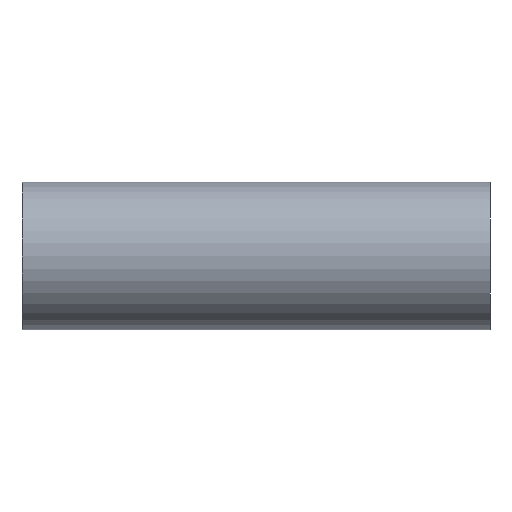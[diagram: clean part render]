
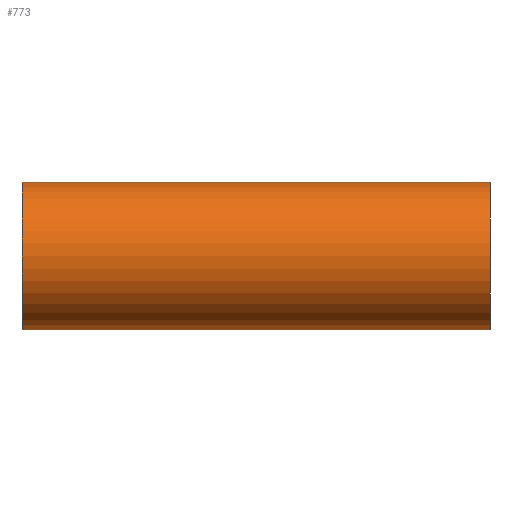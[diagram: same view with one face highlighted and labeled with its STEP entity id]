
A CAD part, front view. The second image highlights one B-rep face of the part: STEP entity #773.
In plain terms, the highlighted cylindrical face has radius 19.05 mm (diameter 38.1 mm), a partial arc.
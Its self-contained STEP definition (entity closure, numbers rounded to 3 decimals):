
#42 = EDGE_LOOP ( 'NONE', ( #490, #875, #330, #984 ) ) ;
#194 = CARTESIAN_POINT ( 'NONE',  ( -60.3, 0., 19.05 ) ) ;
#215 = DIRECTION ( 'NONE',  ( 0., 0., -1. ) ) ;
#219 = DIRECTION ( 'NONE',  ( 1., 0., 0. ) ) ;
#241 = CARTESIAN_POINT ( 'NONE',  ( -60.3, 0., 0. ) ) ;
#255 = CARTESIAN_POINT ( 'NONE',  ( -60.3, 0., -19.05 ) ) ;
#292 = CARTESIAN_POINT ( 'NONE',  ( -60.3, 0., 0. ) ) ;
#330 = ORIENTED_EDGE ( 'NONE', *, *, #453, .T. ) ;
#445 = CYLINDRICAL_SURFACE ( 'NONE', #989, 19.05 ) ;
#453 = EDGE_CURVE ( 'NONE', #776, #930, #866, .T. ) ;
#473 = EDGE_CURVE ( 'NONE', #714, #776, #837, .T. ) ;
#486 = FACE_OUTER_BOUND ( 'NONE', #42, .T. ) ;
#490 = ORIENTED_EDGE ( 'NONE', *, *, #1187, .F. ) ;
#517 = CARTESIAN_POINT ( 'NONE',  ( 60.3, 0., 0. ) ) ;
#527 = DIRECTION ( 'NONE',  ( -1., 0., 0. ) ) ;
#563 = DIRECTION ( 'NONE',  ( 0., 0., -1. ) ) ;
#567 = DIRECTION ( 'NONE',  ( 0., 0., -1. ) ) ;
#600 = DIRECTION ( 'NONE',  ( 1., 0., 0. ) ) ;
#611 = CARTESIAN_POINT ( 'NONE',  ( -60.3, 0., -19.05 ) ) ;
#628 = AXIS2_PLACEMENT_3D ( 'NONE', #517, #527, #563 ) ;
#651 = CIRCLE ( 'NONE', #628, 19.05 ) ;
#669 = DIRECTION ( 'NONE',  ( 1., 0., 0. ) ) ;
#689 = VECTOR ( 'NONE', #748, 1000. ) ;
#713 = EDGE_CURVE ( 'NONE', #930, #911, #651, .T. ) ;
#714 = VERTEX_POINT ( 'NONE', #194 ) ;
#731 = LINE ( 'NONE', #1207, #689 ) ;
#732 = CARTESIAN_POINT ( 'NONE',  ( 60.3, 0., -19.05 ) ) ;
#748 = DIRECTION ( 'NONE',  ( 1., 0., 0. ) ) ;
#773 = ADVANCED_FACE ( 'NONE', ( #486 ), #445, .T. ) ;
#776 = VERTEX_POINT ( 'NONE', #611 ) ;
#837 = CIRCLE ( 'NONE', #1015, 19.05 ) ;
#851 = VECTOR ( 'NONE', #669, 1000. ) ;
#866 = LINE ( 'NONE', #255, #851 ) ;
#875 = ORIENTED_EDGE ( 'NONE', *, *, #473, .T. ) ;
#911 = VERTEX_POINT ( 'NONE', #943 ) ;
#930 = VERTEX_POINT ( 'NONE', #732 ) ;
#943 = CARTESIAN_POINT ( 'NONE',  ( 60.3, 0., 19.05 ) ) ;
#984 = ORIENTED_EDGE ( 'NONE', *, *, #713, .T. ) ;
#989 = AXIS2_PLACEMENT_3D ( 'NONE', #292, #600, #567 ) ;
#1015 = AXIS2_PLACEMENT_3D ( 'NONE', #241, #219, #215 ) ;
#1187 = EDGE_CURVE ( 'NONE', #714, #911, #731, .T. ) ;
#1207 = CARTESIAN_POINT ( 'NONE',  ( -60.3, 0., 19.05 ) ) ;
